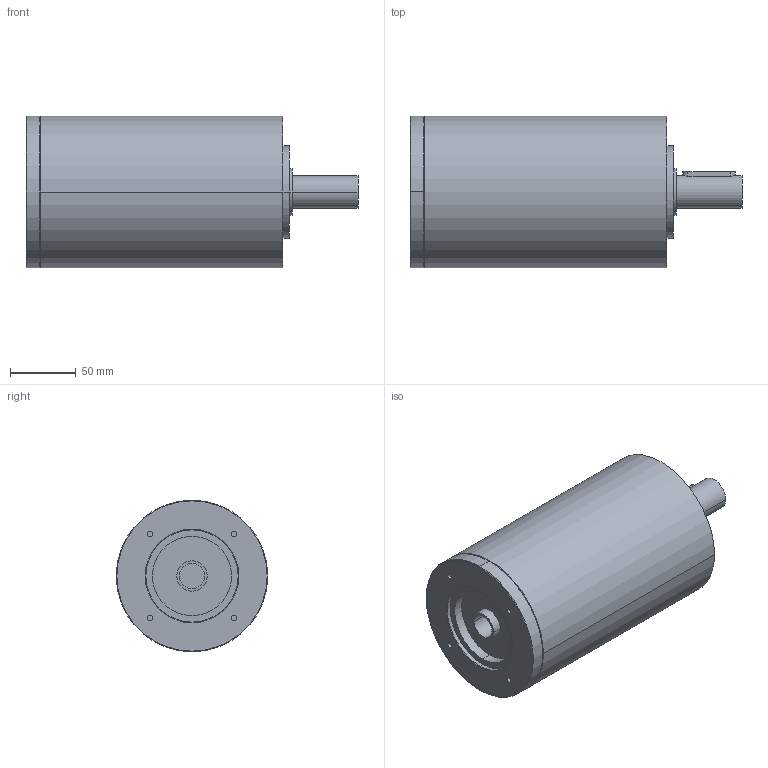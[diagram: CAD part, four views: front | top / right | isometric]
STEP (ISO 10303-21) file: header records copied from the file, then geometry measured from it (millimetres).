
FILE_DESCRIPTION(('CoCreate Modeling STEP Export'),'2;1');
FILE_NAME('GPR125_ig-48-64-80-100-140-196-245-343_25_B14_19_P15.stp','2014-08-26T14:21:53',(''),(''),'CoCreate Modeling STEP processor for AP214 (Solid Model)','CoCreate Modeling 16.00C 25-Feb-2009 (C) Parametric Technology GmbH','');
FILE_SCHEMA(('AUTOMOTIVE_DESIGN { 1 0 10303 214 1 1 1 1 }'));
Length unit declared in the file: millimetre
Products named in the file (2): GPR125_ig-48-64-80-100-140-196-245-343_25_B14_19_P15
Assembly tree (1 placements, depth 2):
  GPR125_ig-48-64-80-100-140-196-245-343_25_B14_19_P15
    GPR125_ig-48-64-80-100-140-196-245-343_25_B14_19_P15
Bounding box: 252 x 115 x 115 mm (x, y, z)
Volume: 2023960.8 mm3; surface area: 104925.9 mm2
Topology: 1 solids, 1 shells, 69 faces, 180 edges, 128 vertices
Faces by surface type: cylinder 38, plane 21, cone 10
Entity records: 1790 total; most frequent: ORIENTED_EDGE 356, CARTESIAN_POINT 336, DIRECTION 226, EDGE_CURVE 178, VERTEX_POINT 128, AXIS2_PLACEMENT_3D 86, EDGE_LOOP 86, FACE_OUTER_BOUND 69
